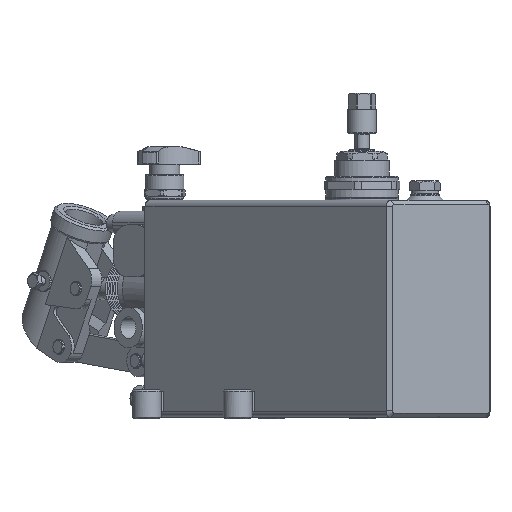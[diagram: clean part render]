
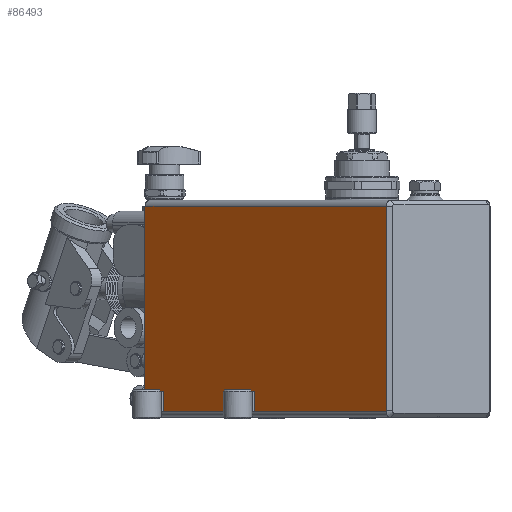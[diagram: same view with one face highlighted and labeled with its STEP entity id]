
A CAD part, left-side view. The second image highlights one B-rep face of the part: STEP entity #86493.
In plain terms, the highlighted planar face has unit normal (-0.697, 0.717, 0).
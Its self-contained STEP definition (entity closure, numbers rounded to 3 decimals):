
#7273=LINE('',#133572,#13331);
#7275=LINE('',#133576,#13333);
#7276=LINE('',#133578,#13334);
#7278=LINE('',#133582,#13336);
#7279=LINE('',#133584,#13337);
#7281=LINE('',#133588,#13339);
#7282=LINE('',#133590,#13340);
#7284=LINE('',#133594,#13342);
#7285=LINE('',#133596,#13343);
#7337=LINE('',#133751,#13395);
#7339=LINE('',#133759,#13397);
#7340=LINE('',#133760,#13398);
#7341=LINE('',#133762,#13399);
#7367=LINE('',#133816,#13425);
#7368=LINE('',#133818,#13426);
#7376=LINE('',#133884,#13434);
#7378=LINE('',#133887,#13436);
#7379=LINE('',#133889,#13437);
#13331=VECTOR('',#107541,1000.);
#13333=VECTOR('',#107545,1000.);
#13334=VECTOR('',#107548,1000.);
#13336=VECTOR('',#107552,1000.);
#13337=VECTOR('',#107555,1000.);
#13339=VECTOR('',#107559,1000.);
#13340=VECTOR('',#107562,1000.);
#13342=VECTOR('',#107566,1000.);
#13343=VECTOR('',#107569,1000.);
#13395=VECTOR('',#107747,1000.);
#13397=VECTOR('',#107753,1000.);
#13398=VECTOR('',#107754,1000.);
#13399=VECTOR('',#107757,1000.);
#13425=VECTOR('',#107817,1000.);
#13426=VECTOR('',#107820,1000.);
#13434=VECTOR('',#107892,1000.);
#13436=VECTOR('',#107896,1000.);
#13437=VECTOR('',#107897,1000.);
#16072=PLANE('',#91757);
#32126=ORIENTED_EDGE('',*,*,#41583,.T.);
#32127=ORIENTED_EDGE('',*,*,#41508,.T.);
#32128=ORIENTED_EDGE('',*,*,#41507,.T.);
#32129=ORIENTED_EDGE('',*,*,#41505,.T.);
#32130=ORIENTED_EDGE('',*,*,#41504,.T.);
#32131=ORIENTED_EDGE('',*,*,#41588,.T.);
#32132=ORIENTED_EDGE('',*,*,#41502,.T.);
#32133=ORIENTED_EDGE('',*,*,#41501,.T.);
#32134=ORIENTED_EDGE('',*,*,#41499,.T.);
#32135=ORIENTED_EDGE('',*,*,#41498,.T.);
#32136=ORIENTED_EDGE('',*,*,#41587,.T.);
#32137=ORIENTED_EDGE('',*,*,#41589,.F.);
#32138=ORIENTED_EDGE('',*,*,#41496,.F.);
#32139=ORIENTED_EDGE('',*,*,#41618,.F.);
#32140=ORIENTED_EDGE('',*,*,#41619,.T.);
#32141=ORIENTED_EDGE('',*,*,#41644,.F.);
#32142=ORIENTED_EDGE('',*,*,#41646,.F.);
#32143=ORIENTED_EDGE('',*,*,#41647,.F.);
#41496=EDGE_CURVE('',#47533,#47489,#7273,.T.);
#41498=EDGE_CURVE('',#47549,#47488,#7275,.T.);
#41499=EDGE_CURVE('',#47437,#47549,#7276,.T.);
#41501=EDGE_CURVE('',#47550,#47437,#7278,.T.);
#41502=EDGE_CURVE('',#47487,#47550,#7279,.T.);
#41504=EDGE_CURVE('',#47551,#47486,#7281,.T.);
#41505=EDGE_CURVE('',#47443,#47551,#7282,.T.);
#41507=EDGE_CURVE('',#47552,#47443,#7284,.T.);
#41508=EDGE_CURVE('',#47485,#47552,#7285,.T.);
#41583=EDGE_CURVE('',#47593,#47485,#7337,.T.);
#41587=EDGE_CURVE('',#47488,#47596,#7339,.T.);
#41588=EDGE_CURVE('',#47486,#47487,#7340,.T.);
#41589=EDGE_CURVE('',#47489,#47596,#7341,.T.);
#41618=EDGE_CURVE('',#47607,#47533,#7367,.T.);
#41619=EDGE_CURVE('',#47607,#47608,#7368,.T.);
#41644=EDGE_CURVE('',#47627,#47608,#7376,.T.);
#41646=EDGE_CURVE('',#47629,#47627,#7378,.T.);
#41647=EDGE_CURVE('',#47593,#47629,#7379,.T.);
#47437=VERTEX_POINT('',#133227);
#47443=VERTEX_POINT('',#133242);
#47485=VERTEX_POINT('',#133351);
#47486=VERTEX_POINT('',#133355);
#47487=VERTEX_POINT('',#133359);
#47488=VERTEX_POINT('',#133363);
#47489=VERTEX_POINT('',#133367);
#47533=VERTEX_POINT('',#133477);
#47549=VERTEX_POINT('',#133575);
#47550=VERTEX_POINT('',#133581);
#47551=VERTEX_POINT('',#133587);
#47552=VERTEX_POINT('',#133593);
#47593=VERTEX_POINT('',#133752);
#47596=VERTEX_POINT('',#133758);
#47607=VERTEX_POINT('',#133815);
#47608=VERTEX_POINT('',#133819);
#47627=VERTEX_POINT('',#133882);
#47629=VERTEX_POINT('',#133888);
#54227=EDGE_LOOP('',(#32126,#32127,#32128,#32129,#32130,#32131,#32132,#32133,
#32134,#32135,#32136,#32137,#32138,#32139,#32140,#32141,#32142,#32143));
#58721=FACE_BOUND('',#54227,.T.);
#86493=ADVANCED_FACE('',(#58721),#16072,.F.);
#91757=AXIS2_PLACEMENT_3D('',#133886,#107894,#107895);
#107541=DIRECTION('',(0.,0.,-1.));
#107545=DIRECTION('',(0.,0.,-1.));
#107548=DIRECTION('',(-0.717,-0.697,0.));
#107552=DIRECTION('',(-0.717,-0.697,0.));
#107555=DIRECTION('',(0.,0.,1.));
#107559=DIRECTION('',(0.,0.,-1.));
#107562=DIRECTION('',(-0.717,-0.697,0.));
#107566=DIRECTION('',(-0.717,-0.697,0.));
#107569=DIRECTION('',(0.,0.,1.));
#107747=DIRECTION('',(-0.717,-0.697,0.));
#107753=DIRECTION('',(-0.717,-0.697,0.));
#107754=DIRECTION('',(-0.717,-0.697,0.));
#107757=DIRECTION('',(0.,0.,-1.));
#107817=DIRECTION('',(0.,0.,-1.));
#107820=DIRECTION('',(0.717,0.697,0.));
#107892=DIRECTION('',(0.,0.,1.));
#107894=DIRECTION('',(0.697,-0.717,0.));
#107895=DIRECTION('',(0.,0.,-1.));
#107896=DIRECTION('',(0.,0.,1.));
#107897=DIRECTION('',(0.,0.,1.));
#133227=CARTESIAN_POINT('',(30.821,78.76,-125.927));
#133242=CARTESIAN_POINT('',(95.259,141.462,-125.927));
#133351=CARTESIAN_POINT('',(99.555,145.642,-139.913));
#133355=CARTESIAN_POINT('',(90.963,137.282,-139.913));
#133359=CARTESIAN_POINT('',(35.117,82.94,-139.913));
#133363=CARTESIAN_POINT('',(26.525,74.58,-139.913));
#133367=CARTESIAN_POINT('',(-67.269,-16.686,-139.413));
#133477=CARTESIAN_POINT('',(-67.269,-16.686,1.446));
#133572=CARTESIAN_POINT('',(-67.269,-16.686,1.446));
#133575=CARTESIAN_POINT('',(26.525,74.58,-125.927));
#133576=CARTESIAN_POINT('',(26.525,74.58,-125.927));
#133578=CARTESIAN_POINT('',(35.117,82.94,-125.927));
#133581=CARTESIAN_POINT('',(35.117,82.94,-125.927));
#133582=CARTESIAN_POINT('',(35.117,82.94,-125.927));
#133584=CARTESIAN_POINT('',(35.117,82.94,-139.913));
#133587=CARTESIAN_POINT('',(90.963,137.282,-125.927));
#133588=CARTESIAN_POINT('',(90.963,137.282,-125.927));
#133590=CARTESIAN_POINT('',(99.555,145.642,-125.927));
#133593=CARTESIAN_POINT('',(99.555,145.642,-125.927));
#133594=CARTESIAN_POINT('',(99.555,145.642,-125.927));
#133596=CARTESIAN_POINT('',(99.555,145.642,-139.913));
#133751=CARTESIAN_POINT('',(103.851,149.822,-139.913));
#133752=CARTESIAN_POINT('',(103.851,149.822,-139.913));
#133758=CARTESIAN_POINT('',(-67.269,-16.686,-139.913));
#133759=CARTESIAN_POINT('',(103.851,149.822,-139.913));
#133760=CARTESIAN_POINT('',(103.851,149.822,-139.913));
#133762=CARTESIAN_POINT('',(-67.269,-16.686,5.941));
#133815=CARTESIAN_POINT('',(-67.269,-16.686,1.945));
#133816=CARTESIAN_POINT('',(-67.269,-16.686,5.941));
#133818=CARTESIAN_POINT('',(-67.269,-16.686,1.945));
#133819=CARTESIAN_POINT('',(103.851,149.822,1.945));
#133882=CARTESIAN_POINT('',(103.851,149.822,1.446));
#133884=CARTESIAN_POINT('',(103.851,149.822,-143.909));
#133886=CARTESIAN_POINT('',(18.291,66.568,-68.984));
#133887=CARTESIAN_POINT('',(103.851,149.822,-139.413));
#133888=CARTESIAN_POINT('',(103.851,149.822,-139.413));
#133889=CARTESIAN_POINT('',(103.851,149.822,-143.909));
